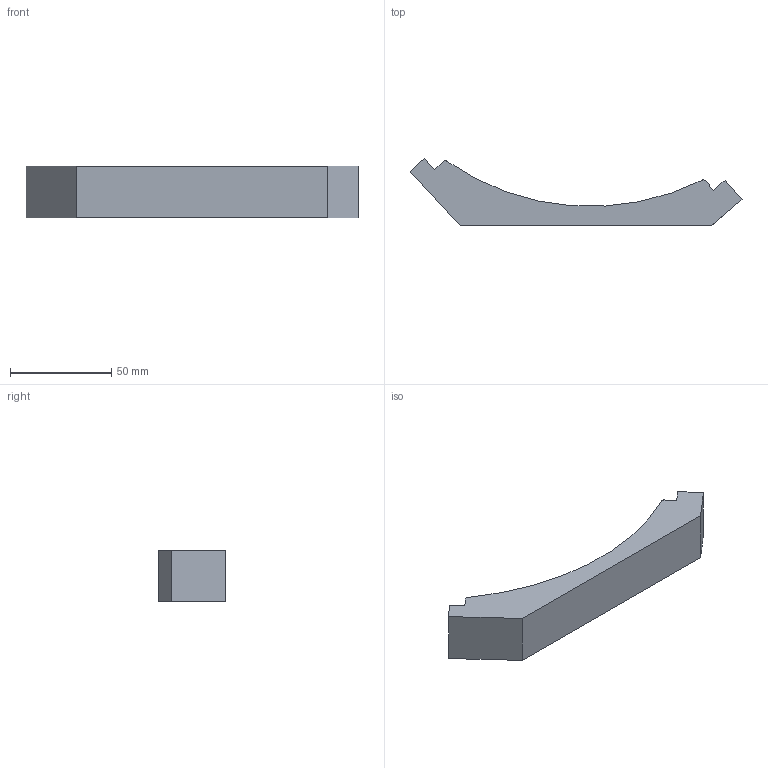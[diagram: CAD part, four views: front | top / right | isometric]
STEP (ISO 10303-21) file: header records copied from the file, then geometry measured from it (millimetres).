
FILE_DESCRIPTION (( 'STEP AP203' ), '1' );
FILE_NAME ('AB802-6FJ.STEP', '2023-08-25T14:21:44', ( '' ), ( '' ), 'SwSTEP 2.0', 'SolidWorks 2020', '' );
FILE_SCHEMA (( 'CONFIG_CONTROL_DESIGN' ));
Length unit declared in the file: inch
Products named in the file (1): AB802-6FJ
Bounding box: 164.26 x 33.4 x 25.4 mm (x, y, z)
Volume: 62262.5 mm3; surface area: 14226 mm2
Topology: 1 solids, 1 shells, 14 faces, 36 edges, 24 vertices
Faces by surface type: plane 11, cylinder 3
Entity records: 505 total; most frequent: CARTESIAN_POINT 75, ORIENTED_EDGE 72, DIRECTION 72, EDGE_CURVE 36, LINE 30, VECTOR 30, VERTEX_POINT 24, AXIS2_PLACEMENT_3D 21
